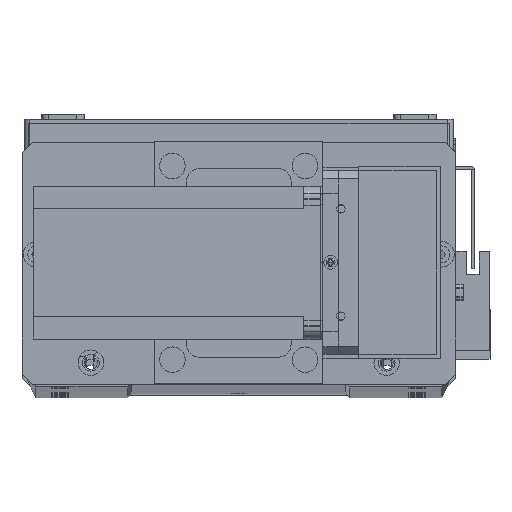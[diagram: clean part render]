
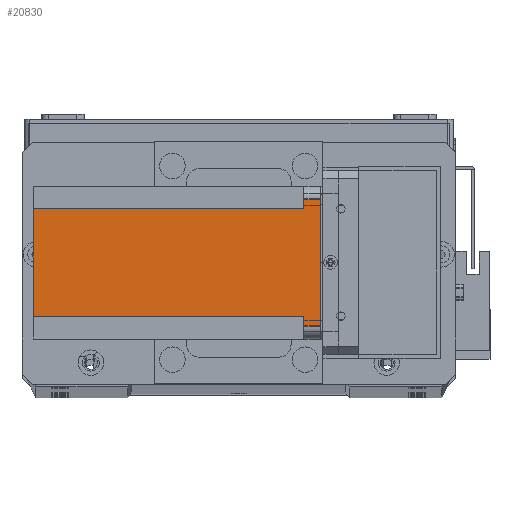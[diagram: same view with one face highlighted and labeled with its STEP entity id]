
A CAD part, top view. The second image highlights one B-rep face of the part: STEP entity #20830.
In plain terms, the highlighted planar face has unit normal (0, 0, 1) as drawn and (-1, 0, 0) by its records, which use the part's own axes.
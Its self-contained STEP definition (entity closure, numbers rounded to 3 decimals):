
#1073 = CARTESIAN_POINT ( 'NONE',  ( 0., 5., 0. ) ) ;
#1256 = VECTOR ( 'NONE', #24529, 1000. ) ;
#2914 = VECTOR ( 'NONE', #25661, 1000. ) ;
#3425 = EDGE_CURVE ( 'NONE', #10460, #31276, #5932, .T. ) ;
#4998 = LINE ( 'NONE', #16755, #18716 ) ;
#5219 = CARTESIAN_POINT ( 'NONE',  ( 0., 51., -112.5 ) ) ;
#5873 = LINE ( 'NONE', #8668, #32867 ) ;
#5896 = DIRECTION ( 'NONE',  ( 0., -1., 0. ) ) ;
#5909 = DIRECTION ( 'NONE',  ( -1., 0., 0. ) ) ;
#5932 = LINE ( 'NONE', #7426, #12909 ) ;
#5946 = CARTESIAN_POINT ( 'NONE',  ( 0., 0., -112.5 ) ) ;
#6038 = PLANE ( 'NONE',  #32566 ) ;
#6499 = DIRECTION ( 'NONE',  ( 0., -1., 0. ) ) ;
#6501 = VERTEX_POINT ( 'NONE', #5219 ) ;
#6696 = CARTESIAN_POINT ( 'NONE',  ( 0., 55., 0. ) ) ;
#7426 = CARTESIAN_POINT ( 'NONE',  ( 0., 60., -6.5 ) ) ;
#7517 = EDGE_CURVE ( 'NONE', #6501, #10460, #29200, .T. ) ;
#7831 = CARTESIAN_POINT ( 'NONE',  ( 0., 5., -6.5 ) ) ;
#8285 = EDGE_CURVE ( 'NONE', #8703, #31276, #5873, .T. ) ;
#8561 = CARTESIAN_POINT ( 'NONE',  ( 0., 5., -112.5 ) ) ;
#8668 = CARTESIAN_POINT ( 'NONE',  ( 0., 55., -112.5 ) ) ;
#8703 = VERTEX_POINT ( 'NONE', #6696 ) ;
#9343 = LINE ( 'NONE', #17173, #1256 ) ;
#10072 = LINE ( 'NONE', #20585, #2914 ) ;
#10407 = VERTEX_POINT ( 'NONE', #19165 ) ;
#10460 = VERTEX_POINT ( 'NONE', #24930 ) ;
#11149 = VERTEX_POINT ( 'NONE', #1073 ) ;
#11749 = ORIENTED_EDGE ( 'NONE', *, *, #15530, .T. ) ;
#11967 = LINE ( 'NONE', #27341, #18623 ) ;
#12194 = EDGE_CURVE ( 'NONE', #6501, #29898, #11967, .T. ) ;
#12909 = VECTOR ( 'NONE', #15848, 1000. ) ;
#15530 = EDGE_CURVE ( 'NONE', #30335, #11149, #20294, .T. ) ;
#15848 = DIRECTION ( 'NONE',  ( 0., 1., 0. ) ) ;
#15891 = VECTOR ( 'NONE', #20749, 1000. ) ;
#16210 = DIRECTION ( 'NONE',  ( 0., 0., 1. ) ) ;
#16755 = CARTESIAN_POINT ( 'NONE',  ( 0., 0., 0. ) ) ;
#17173 = CARTESIAN_POINT ( 'NONE',  ( 0., 9., -112.5 ) ) ;
#17523 = FACE_OUTER_BOUND ( 'NONE', #17555, .T. ) ;
#17555 = EDGE_LOOP ( 'NONE', ( #32550, #11749, #23637, #26429, #29245, #32876, #25878, #27981 ) ) ;
#18623 = VECTOR ( 'NONE', #28311, 1000. ) ;
#18716 = VECTOR ( 'NONE', #6499, 1000. ) ;
#19165 = CARTESIAN_POINT ( 'NONE',  ( 0., 9., -6.5 ) ) ;
#20294 = LINE ( 'NONE', #8561, #32047 ) ;
#20585 = CARTESIAN_POINT ( 'NONE',  ( 0., 0., -6.5 ) ) ;
#20706 = CARTESIAN_POINT ( 'NONE',  ( 0., 9., -112.5 ) ) ;
#20749 = DIRECTION ( 'NONE',  ( 0., 0., 1. ) ) ;
#20830 = ADVANCED_FACE ( 'NONE', ( #17523 ), #6038, .T. ) ;
#21440 = CARTESIAN_POINT ( 'NONE',  ( 0., 51., -112.5 ) ) ;
#23637 = ORIENTED_EDGE ( 'NONE', *, *, #32840, .F. ) ;
#24100 = CARTESIAN_POINT ( 'NONE',  ( 0., 55., -6.5 ) ) ;
#24529 = DIRECTION ( 'NONE',  ( 0., 0., -1. ) ) ;
#24930 = CARTESIAN_POINT ( 'NONE',  ( 0., 51., -6.5 ) ) ;
#25661 = DIRECTION ( 'NONE',  ( 0., 1., 0. ) ) ;
#25878 = ORIENTED_EDGE ( 'NONE', *, *, #12194, .T. ) ;
#26319 = DIRECTION ( 'NONE',  ( 0., 0., -1. ) ) ;
#26429 = ORIENTED_EDGE ( 'NONE', *, *, #8285, .T. ) ;
#27341 = CARTESIAN_POINT ( 'NONE',  ( 0., 0., -112.5 ) ) ;
#27981 = ORIENTED_EDGE ( 'NONE', *, *, #28493, .F. ) ;
#28311 = DIRECTION ( 'NONE',  ( 0., -1., 0. ) ) ;
#28493 = EDGE_CURVE ( 'NONE', #10407, #29898, #9343, .T. ) ;
#29200 = LINE ( 'NONE', #21440, #15891 ) ;
#29245 = ORIENTED_EDGE ( 'NONE', *, *, #3425, .F. ) ;
#29898 = VERTEX_POINT ( 'NONE', #20706 ) ;
#30335 = VERTEX_POINT ( 'NONE', #7831 ) ;
#31276 = VERTEX_POINT ( 'NONE', #24100 ) ;
#32047 = VECTOR ( 'NONE', #16210, 1000. ) ;
#32550 = ORIENTED_EDGE ( 'NONE', *, *, #33237, .F. ) ;
#32566 = AXIS2_PLACEMENT_3D ( 'NONE', #5946, #5909, #5896 ) ;
#32840 = EDGE_CURVE ( 'NONE', #8703, #11149, #4998, .T. ) ;
#32867 = VECTOR ( 'NONE', #26319, 1000. ) ;
#32876 = ORIENTED_EDGE ( 'NONE', *, *, #7517, .F. ) ;
#33237 = EDGE_CURVE ( 'NONE', #30335, #10407, #10072, .T. ) ;
